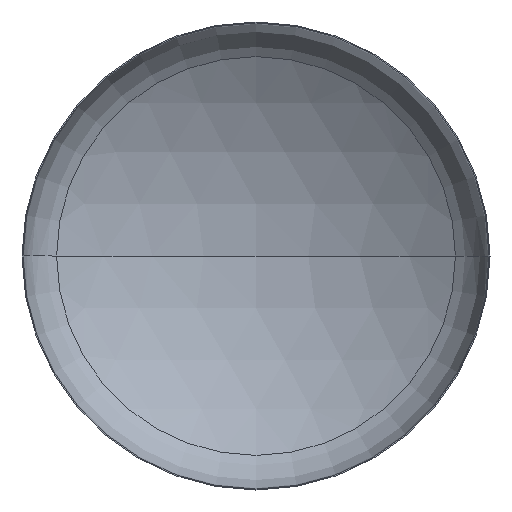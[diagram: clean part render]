
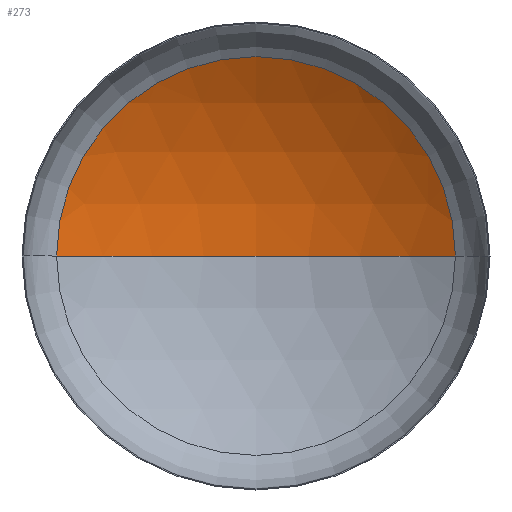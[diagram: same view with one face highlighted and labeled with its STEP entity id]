
A CAD part, front view. The second image highlights one B-rep face of the part: STEP entity #273.
In plain terms, the highlighted spherical face has radius 6400 mm.
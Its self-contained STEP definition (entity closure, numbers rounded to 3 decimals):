
#7 = VERTEX_POINT ( 'NONE', #397 ) ;
#38 = ORIENTED_EDGE ( 'NONE', *, *, #166, .F. ) ;
#65 = VERTEX_POINT ( 'NONE', #328 ) ;
#68 = AXIS2_PLACEMENT_3D ( 'NONE', #230, #307, #248 ) ;
#93 = EDGE_LOOP ( 'NONE', ( #38, #111, #118 ) ) ;
#102 = AXIS2_PLACEMENT_3D ( 'NONE', #201, #193, #191 ) ;
#104 = VERTEX_POINT ( 'NONE', #305 ) ;
#110 = AXIS2_PLACEMENT_3D ( 'NONE', #197, #195, #194 ) ;
#111 = ORIENTED_EDGE ( 'NONE', *, *, #165, .T. ) ;
#113 = AXIS2_PLACEMENT_3D ( 'NONE', #280, #282, #180 ) ;
#118 = ORIENTED_EDGE ( 'NONE', *, *, #163, .T. ) ;
#148 = SPHERICAL_SURFACE ( 'NONE', #68, 6400. ) ;
#163 = EDGE_CURVE ( 'NONE', #65, #104, #184, .T. ) ;
#165 = EDGE_CURVE ( 'NONE', #7, #65, #407, .T. ) ;
#166 = EDGE_CURVE ( 'NONE', #7, #104, #299, .T. ) ;
#180 = DIRECTION ( 'NONE',  ( 1., 0., 0. ) ) ;
#184 = CIRCLE ( 'NONE', #113, 3407.969 ) ;
#191 = DIRECTION ( 'NONE',  ( 1., 0., 0. ) ) ;
#193 = DIRECTION ( 'NONE',  ( 0., 0., 1. ) ) ;
#194 = DIRECTION ( 'NONE',  ( -1., 0., 0. ) ) ;
#195 = DIRECTION ( 'NONE',  ( 0., 0., -1. ) ) ;
#197 = CARTESIAN_POINT ( 'NONE',  ( 0., -4321.059, 0. ) ) ;
#201 = CARTESIAN_POINT ( 'NONE',  ( 0., -4321.059, 0. ) ) ;
#230 = CARTESIAN_POINT ( 'NONE',  ( 0., -4321.059, 0. ) ) ;
#248 = DIRECTION ( 'NONE',  ( -1., 0., 0. ) ) ;
#273 = ADVANCED_FACE ( 'NONE', ( #337 ), #148, .F. ) ;
#280 = CARTESIAN_POINT ( 'NONE',  ( 0., 1096.113, 0. ) ) ;
#282 = DIRECTION ( 'NONE',  ( 0., -1., 0. ) ) ;
#299 = CIRCLE ( 'NONE', #102, 6400. ) ;
#305 = CARTESIAN_POINT ( 'NONE',  ( -3407.969, 1096.113, 0. ) ) ;
#307 = DIRECTION ( 'NONE',  ( 0., 0., -1. ) ) ;
#328 = CARTESIAN_POINT ( 'NONE',  ( 3407.969, 1096.113, 0. ) ) ;
#337 = FACE_OUTER_BOUND ( 'NONE', #93, .T. ) ;
#397 = CARTESIAN_POINT ( 'NONE',  ( 0., 2078.941, 0. ) ) ;
#407 = CIRCLE ( 'NONE', #110, 6400. ) ;
